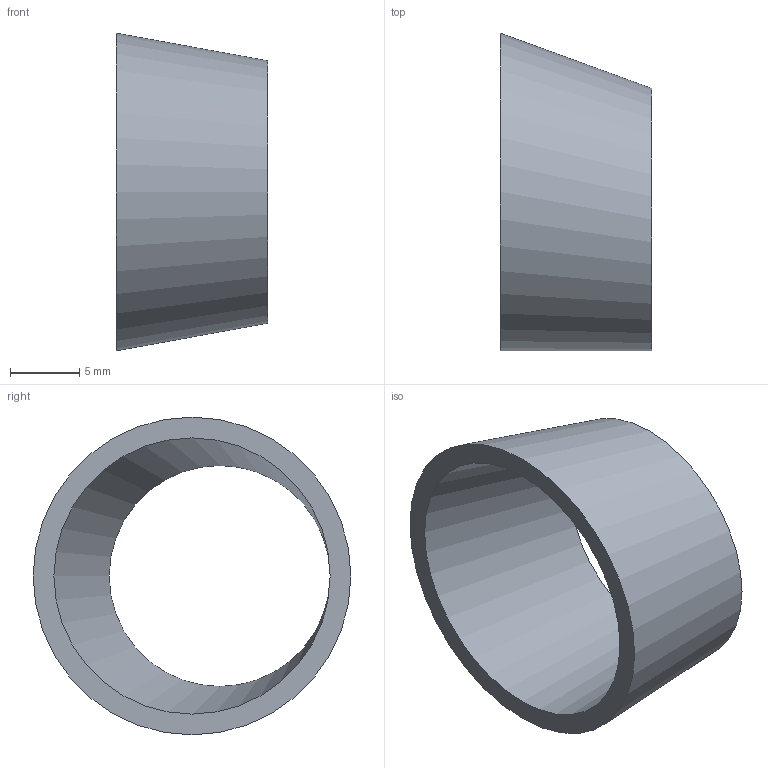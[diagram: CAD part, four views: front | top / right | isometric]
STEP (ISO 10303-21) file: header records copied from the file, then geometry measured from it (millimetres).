
FILE_DESCRIPTION(('FreeCAD Model'),'2;1');
FILE_NAME( '/home/martin/Documents/proyect/accesorios/stp/red-exc_DN20-15.step', '2017-12-31T13:01:54',('Author'),(''), 'Open CASCADE STEP processor 6.8','FreeCAD','Unknown');
FILE_SCHEMA(('AUTOMOTIVE_DESIGN_CC2 { 1 2 10303 214 -1 1 5 4 }'));
Length unit declared in the file: millimetre
Products named in the file (1): red-exc_DN20-15
Bounding box: 11 x 23 x 23 mm (x, y, z)
Volume: 1010.8 mm3; surface area: 1564.2 mm2
Topology: 1 solids, 1 shells, 4 faces, 6 edges, 4 vertices
Faces by surface type: bspline 2, plane 2
Entity records: 247 total; most frequent: CARTESIAN_POINT 87, DIRECTION 26, ORIENTED_EDGE 12, PCURVE 12, DEFINITIONAL_REPRESENTATION 12, CIRCLE 8, LINE 8, VECTOR 8
